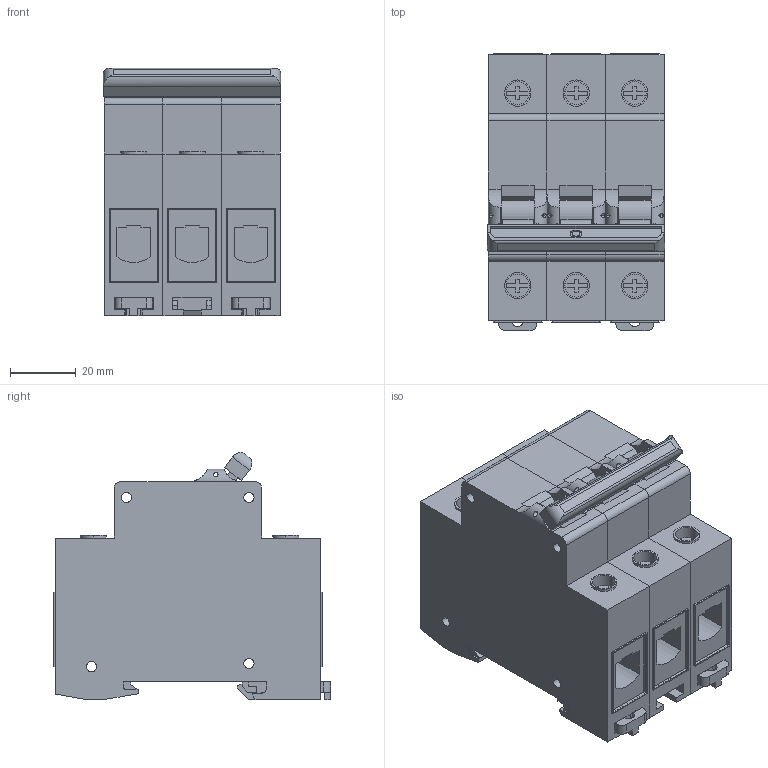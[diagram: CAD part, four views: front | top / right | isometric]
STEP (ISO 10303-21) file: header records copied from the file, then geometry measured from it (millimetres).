
FILE_DESCRIPTION((''),'2;1');
FILE_NAME('SB109206_3D-SIMPLIFIED_ASM','2014-01-21T',('mcordero'),(''),'PRO/ENGINEER BY PARAMETRIC TECHNOLOGY CORPORATION, 2006170','PRO/ENGINEER BY PARAMETRIC TECHNOLOGY CORPORATION, 2006170','');
FILE_SCHEMA(('AUTOMOTIVE_DESIGN { 1 0 10303 214 1 1 1 1 }'));
Length unit declared in the file: millimetre
Products named in the file (9): COQUE_1; MANETTE_1; CLIP_1; VIS_7D_1; BLOCK_01_ASM_1_ASM; BLOCK_02_ASM_1_ASM; EXTENSION_MANETTE_02_3P_1; SWITCH_3P_3D-SIMPLIFIED_ASM_1_ASM; SB109206_3D-SIMPLIFIED_ASM
Assembly tree (14 placements, depth 4):
  SB109206_3D-SIMPLIFIED_ASM
    SWITCH_3P_3D-SIMPLIFIED_ASM_1_ASM
      BLOCK_01_ASM_1_ASM  x2
        COQUE_1
        MANETTE_1
        CLIP_1
        VIS_7D_1
      BLOCK_02_ASM_1_ASM
        COQUE_1
        MANETTE_1
        VIS_7D_1  x2
      EXTENSION_MANETTE_02_3P_1
Bounding box: 54 x 84.5 x 75.44 mm (x, y, z)
Volume: 232136.6 mm3; surface area: 60751.7 mm2
Topology: 15 solids, 15 shells, 777 faces, 2121 edges, 1416 vertices
Faces by surface type: plane 581, cylinder 196
Entity records: 9757 total; most frequent: CARTESIAN_POINT 1877, ORIENTED_EDGE 1564, DIRECTION 1560, EDGE_CURVE 782, VECTOR 614, LINE 614, VERTEX_POINT 522, AXIS2_PLACEMENT_3D 473
